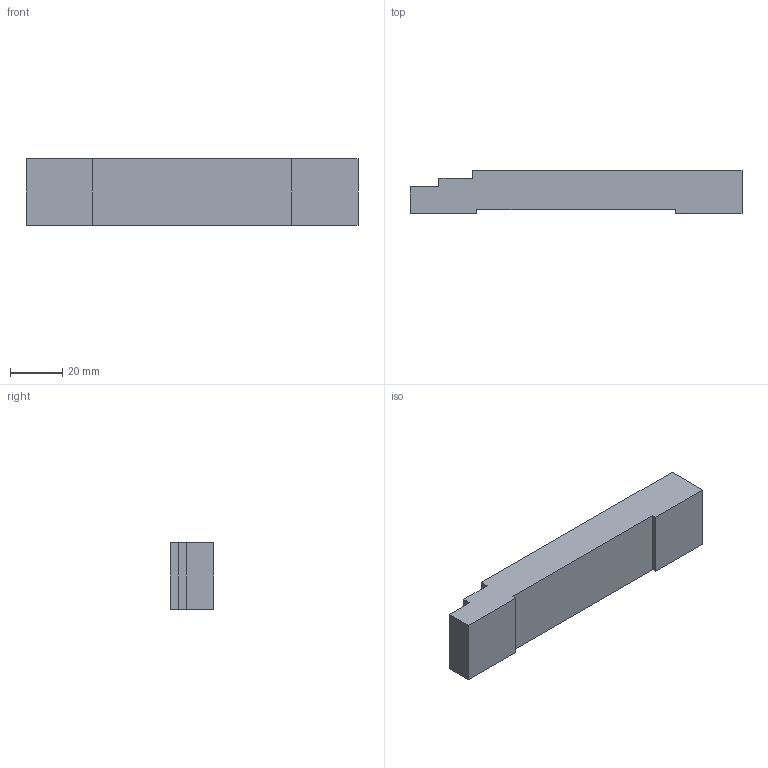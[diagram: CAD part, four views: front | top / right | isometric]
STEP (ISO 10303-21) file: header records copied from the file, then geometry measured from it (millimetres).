
FILE_DESCRIPTION (( 'STEP AP203' ), '1' );
FILE_NAME ('HM9205-5FJ.STEP', '2023-08-25T14:28:25', ( '' ), ( '' ), 'SwSTEP 2.0', 'SolidWorks 2020', '' );
FILE_SCHEMA (( 'CONFIG_CONTROL_DESIGN' ));
Length unit declared in the file: inch
Products named in the file (1): HM9205-5FJ
Bounding box: 127 x 16.66 x 25.4 mm (x, y, z)
Volume: 47946.2 mm3; surface area: 11152.1 mm2
Topology: 1 solids, 1 shells, 14 faces, 36 edges, 24 vertices
Faces by surface type: plane 14
Entity records: 499 total; most frequent: CARTESIAN_POINT 75, ORIENTED_EDGE 72, DIRECTION 66, EDGE_CURVE 36, VECTOR 36, LINE 36, VERTEX_POINT 24, AXIS2_PLACEMENT_3D 15
